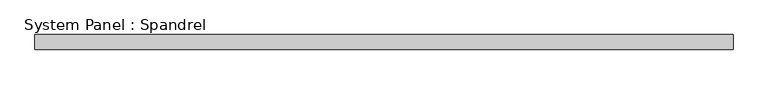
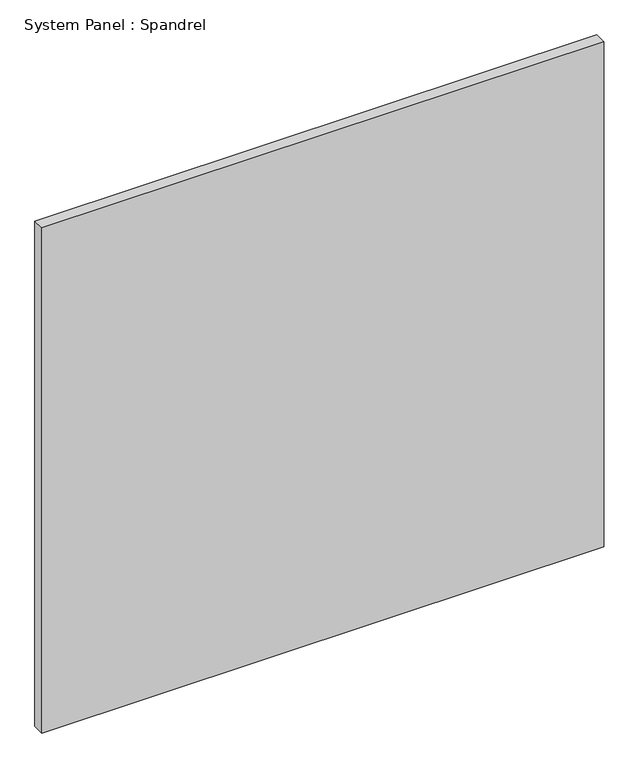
"""IFC4 building model written with IfcOpenShell, lengths in millimetres: plate geometry, System Panel : Spandrel."""

from ifc_helpers import new_model, si_unit, origin, origin_with_axes, place, context, project, spatial, polyline, outline, extrude, source, transform, mapped, element, save


def system_panel_spandrel_9d810aad(model_context):
    return source(origin(), model_context, "Body", "SweptSolid", [
        extrude(outline(polyline([(578.8703325, -25.0), (-578.8703325, -25.0), (-578.8703325, 0.0), (578.8703325, 0.0), (578.8703325, -25.0)])), origin_with_axes(), (0.0, 0.0, 1.0), 1100.0),
    ])


if __name__ == "__main__":
    model = new_model("IFC4")
    model_context = context("Model", 3, world=origin())
    ifc_project = project(units=[si_unit("LENGTHUNIT", "METRE", prefix="MILLI")], contexts=[model_context])
    site = spatial("IfcSite", under=ifc_project)
    building = spatial("IfcBuilding", under=site)
    placement = place(None, origin())
    system_panel_spandrel_shape = system_panel_spandrel_9d810aad(model_context)
    element("IfcPlate", 1, ObjectType="System Panel : Spandrel", at=placement, inside=building, context=model_context, shape_type="MappedRepresentation", body=[
        mapped(system_panel_spandrel_shape, transform((0.0, 0.0, 0.0), x_axis=(1.0, 0.0, 0.0), y_axis=(0.0, 1.0, 0.0), z_axis=(0.0, 0.0, 1.0))),
    ])
    save(model, "model.ifc")
